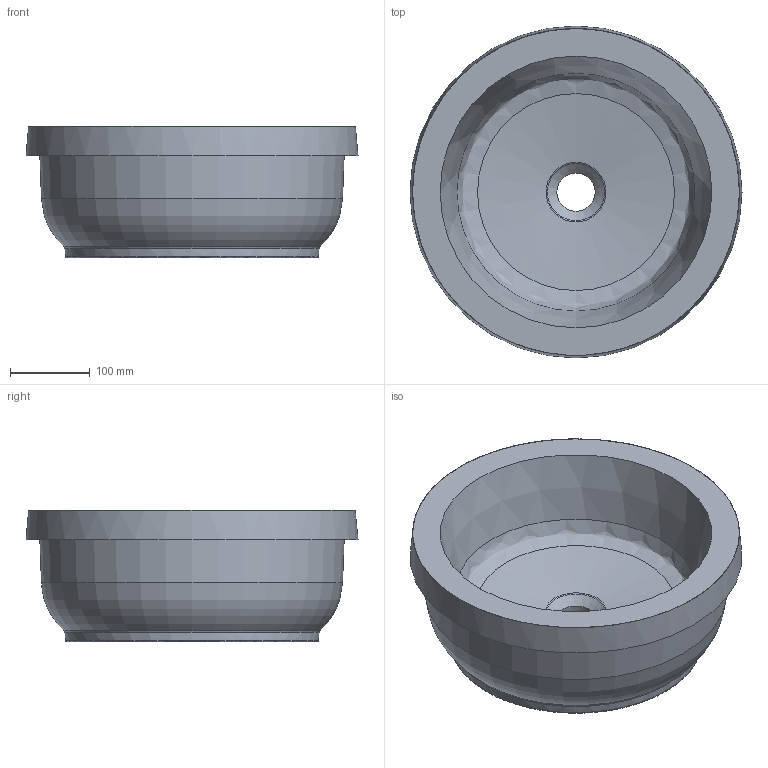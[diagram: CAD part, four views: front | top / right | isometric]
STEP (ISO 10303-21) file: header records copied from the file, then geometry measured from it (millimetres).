
FILE_DESCRIPTION(/* description */ (''),/* implementation_level */ '2;1');
FILE_NAME(/* name */ '417540_Matrix_Rund_UWT.stp',/* time_stamp */ '2019-02-18T12:54:36+01:00',/* author */ (''),/* organization */ (''),/* preprocessor_version */ 'ST-DEVELOPER v16',/* originating_system */ 'SIEMENS PLM Software NX 10.0',/* authorisation */ '');
FILE_SCHEMA (('AUTOMOTIVE_DESIGN { 1 0 10303 214 3 1 1 1 }'));
Length unit declared in the file: millimetre
Products named in the file (1): math227069EC3yiw
Bounding box: 415.31 x 415.31 x 165 mm (x, y, z)
Volume: 9656044.4 mm3; surface area: 513539.9 mm2
Topology: 1 solids, 1 shells, 22 faces, 52 edges, 33 vertices
Faces by surface type: plane 7, cone 6, bspline 4, torus 3, cylinder 1, revolution 1
Full cylindrical faces by diameter (mm): 47.85 x1
Entity records: 1525 total; most frequent: CARTESIAN_POINT 1106, DIRECTION 71, ORIENTED_EDGE 70, EDGE_LOOP 36, EDGE_CURVE 35, AXIS2_PLACEMENT_3D 35, FACE_BOUND 28, VERTEX_POINT 27
